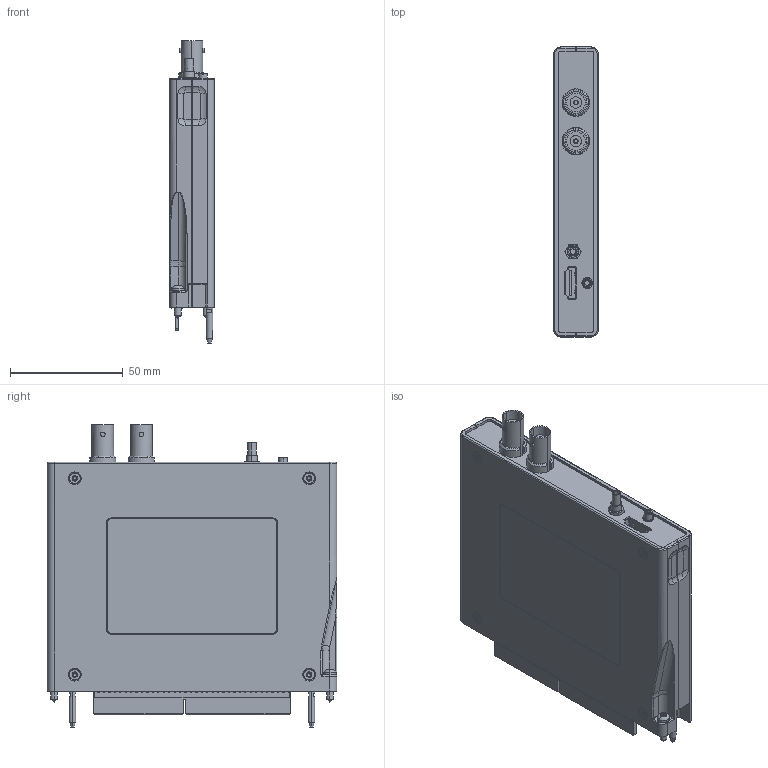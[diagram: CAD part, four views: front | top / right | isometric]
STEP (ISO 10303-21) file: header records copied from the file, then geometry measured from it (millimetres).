
FILE_DESCRIPTION((''),'2;1');
FILE_NAME('CU_FAM2_NI-573X','2012-01-12T',('jjorden'),(''),'PRO/ENGINEER BY PARAMETRIC TECHNOLOGY CORPORATION, 2010230','PRO/ENGINEER BY PARAMETRIC TECHNOLOGY CORPORATION, 2010230','');
FILE_SCHEMA(('CONFIG_CONTROL_DESIGN'));
Products named in the file (1): CU_FAM2_NI-573X
Bounding box: 19.81 x 128.68 x 134.17 mm (x, y, z)
Volume: 74282.9 mm3; surface area: 109725 mm2
Topology: 4 solids, 5 shells, 3074 faces, 7151 edges, 4108 vertices
Faces by surface type: plane 1416, cylinder 1106, bspline 376, cone 108, sphere 40, torus 28
Entity records: 107704 total; most frequent: CARTESIAN_POINT 41240, ORIENTED_EDGE 14254, DIRECTION 12885, EDGE_CURVE 7127, AXIS2_PLACEMENT_3D 4378, VERTEX_POINT 4146, VECTOR 4129, LINE 4129
